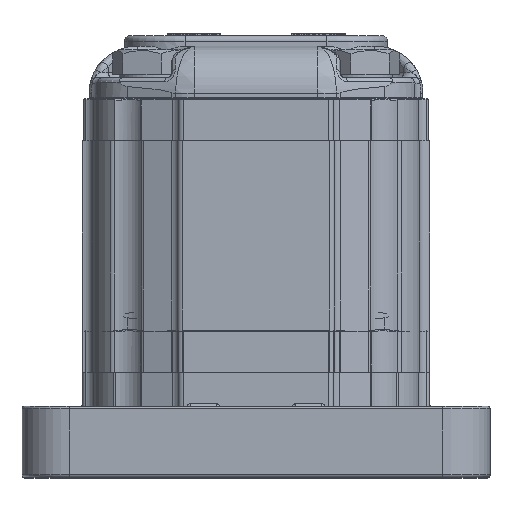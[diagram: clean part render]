
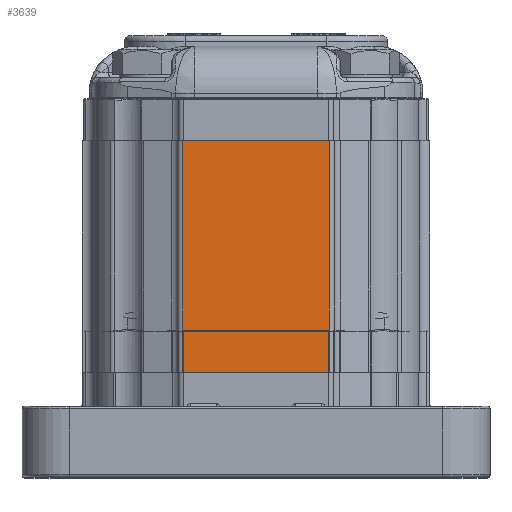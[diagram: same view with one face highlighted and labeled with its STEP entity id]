
A CAD part, top view. The second image highlights one B-rep face of the part: STEP entity #3639.
In plain terms, the highlighted planar face has unit normal (0, 0, 1).
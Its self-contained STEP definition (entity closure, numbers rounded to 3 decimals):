
#3639 = ADVANCED_FACE( '', ( #8588 ), #8589, .F. );
#8588 = FACE_OUTER_BOUND( '', #16163, .T. );
#8589 = PLANE( '', #16164 );
#16163 = EDGE_LOOP( '', ( #29112, #29113, #29114, #29115 ) );
#16164 = AXIS2_PLACEMENT_3D( '', #29116, #29117, #29118 );
#29112 = ORIENTED_EDGE( '', *, *, #44200, .T. );
#29113 = ORIENTED_EDGE( '', *, *, #44201, .F. );
#29114 = ORIENTED_EDGE( '', *, *, #42429, .F. );
#29115 = ORIENTED_EDGE( '', *, *, #42809, .T. );
#29116 = CARTESIAN_POINT( '', ( 13.965, 44., 36. ) );
#29117 = DIRECTION( '', ( 0., 0., -1. ) );
#29118 = DIRECTION( '', ( -1., 0., 0. ) );
#42429 = EDGE_CURVE( '', #51183, #51185, #51186, .T. );
#42809 = EDGE_CURVE( '', #51183, #51795, #51797, .T. );
#44200 = EDGE_CURVE( '', #51795, #53864, #53865, .T. );
#44201 = EDGE_CURVE( '', #51185, #53864, #53866, .T. );
#51183 = VERTEX_POINT( '', #64628 );
#51185 = VERTEX_POINT( '', #64630 );
#51186 = LINE( '', #64631, #64632 );
#51795 = VERTEX_POINT( '', #66116 );
#51797 = LINE( '', #66118, #66119 );
#53864 = VERTEX_POINT( '', #69941 );
#53865 = LINE( '', #69942, #69943 );
#53866 = LINE( '', #69944, #69945 );
#64628 = CARTESIAN_POINT( '', ( -13.965, 44., 36. ) );
#64630 = CARTESIAN_POINT( '', ( 13.965, 44., 36. ) );
#64631 = CARTESIAN_POINT( '', ( 13.965, 44., 36. ) );
#64632 = VECTOR( '', #79675, 1000. );
#66116 = CARTESIAN_POINT( '', ( -13.965, 0., 36. ) );
#66118 = CARTESIAN_POINT( '', ( -13.965, 44., 36. ) );
#66119 = VECTOR( '', #80201, 1000. );
#69941 = CARTESIAN_POINT( '', ( 13.965, 0., 36. ) );
#69942 = CARTESIAN_POINT( '', ( 13.965, 0., 36. ) );
#69943 = VECTOR( '', #81881, 1000. );
#69944 = CARTESIAN_POINT( '', ( 13.965, 44., 36. ) );
#69945 = VECTOR( '', #81882, 1000. );
#79675 = DIRECTION( '', ( 1., 0., 0. ) );
#80201 = DIRECTION( '', ( 0., -1., 0. ) );
#81881 = DIRECTION( '', ( 1., 0., 0. ) );
#81882 = DIRECTION( '', ( 0., -1., 0. ) );
